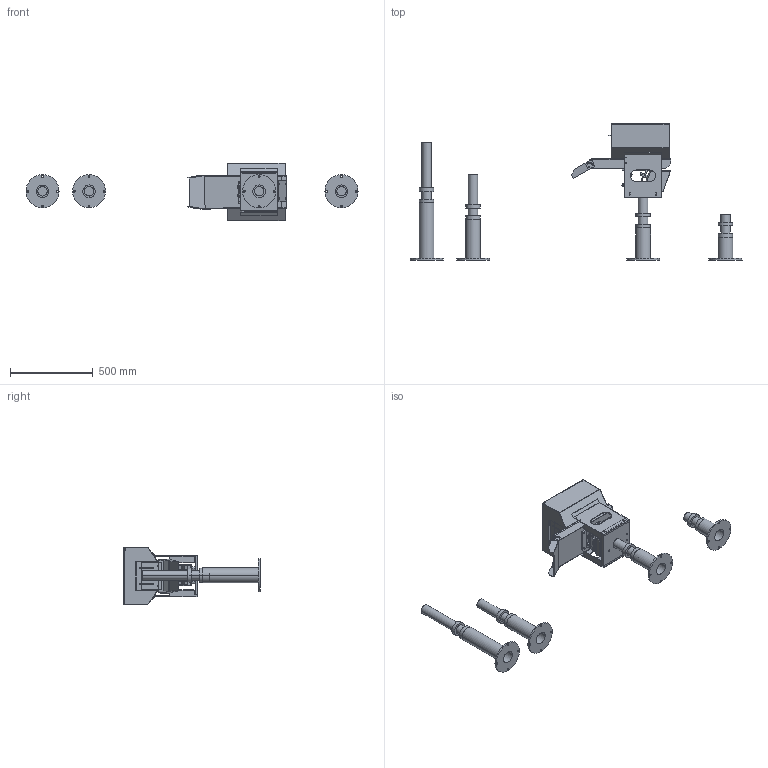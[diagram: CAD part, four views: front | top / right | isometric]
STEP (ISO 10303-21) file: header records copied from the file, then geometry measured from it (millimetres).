
FILE_DESCRIPTION (( 'STEP AP203' ), '1' );
FILE_NAME ('LC35-A淥雄蹋累.STEP', '2025-07-13T02:37:51', ( '' ), ( '' ), 'SwSTEP 2.0', 'SolidWorks 2022', '' );
FILE_SCHEMA (( 'CONFIG_CONTROL_DESIGN' ));
Length unit declared in the file: millimetre
Products named in the file (1): LC35-A淥雄蹋累
Bounding box: 2005.91 x 823.19 x 349.12 mm (x, y, z)
Volume: 11622522.3 mm3; surface area: 3087102.5 mm2
Topology: 35 solids, 39 shells, 1011 faces, 2503 edges, 1588 vertices
Faces by surface type: plane 528, cylinder 381, cone 88, bspline 11, torus 3
Entity records: 33955 total; most frequent: CARTESIAN_POINT 9515, DIRECTION 5061, ORIENTED_EDGE 4962, EDGE_CURVE 2481, AXIS2_PLACEMENT_3D 1829, VERTEX_POINT 1588, VECTOR 1403, LINE 1403
